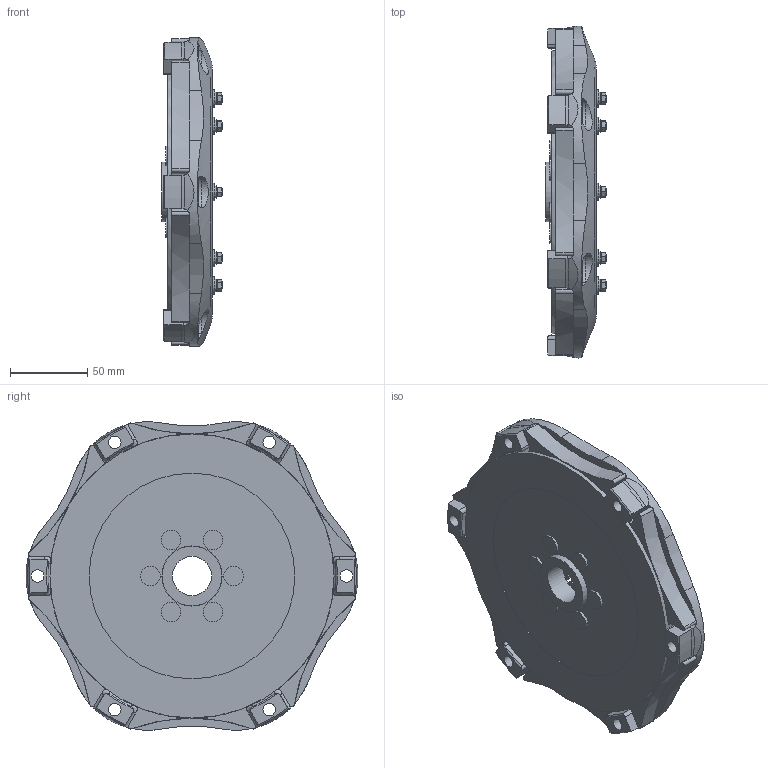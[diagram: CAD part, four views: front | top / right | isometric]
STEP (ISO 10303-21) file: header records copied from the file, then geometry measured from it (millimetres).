
FILE_DESCRIPTION(/* description */ ('Unknown'),/* implementation_level */ '2;1');
FILE_NAME(/* name */ '66-001HG-F',/* time_stamp */ '2020-10-19T13:00:03-07:00',/* author */ ('Unknown'),/* organization */ ('Unknown'),/* preprocessor_version */ 'ST-DEVELOPER v16.7',/* originating_system */ 'DEX',/* authorisation */ $);
FILE_SCHEMA (('AUTOMOTIVE_DESIGN {1 0 10303 214 3 1 1}'));
Length unit declared in the file: millimetre
Products named in the file (1): 66-001HG-F
Bounding box: 39.27 x 215.2 x 199.98 mm (x, y, z)
Volume: 634868.8 mm3; surface area: 135376.9 mm2
Topology: 1 solids, 1 shells, 738 faces, 1921 edges, 1250 vertices
Faces by surface type: plane 350, cylinder 313, cone 40, torus 35
Full cylindrical faces by diameter (mm): 4.572 x8, 4.902 x8, 8.077 x6, 8.128 x8, 9.093 x6, 11.176 x8, 12.7 x6, 25.4 x1, 38.837 x1, 38.938 x1, 97.472 x1, 114.3 x1, 133.35 x1, 184.15 x1
Entity records: 22473 total; most frequent: CARTESIAN_POINT 4590, DIRECTION 3800, ORIENTED_EDGE 3612, EDGE_CURVE 1806, AXIS2_PLACEMENT_3D 1451, VERTEX_POINT 1212, LINE 898, VECTOR 898
